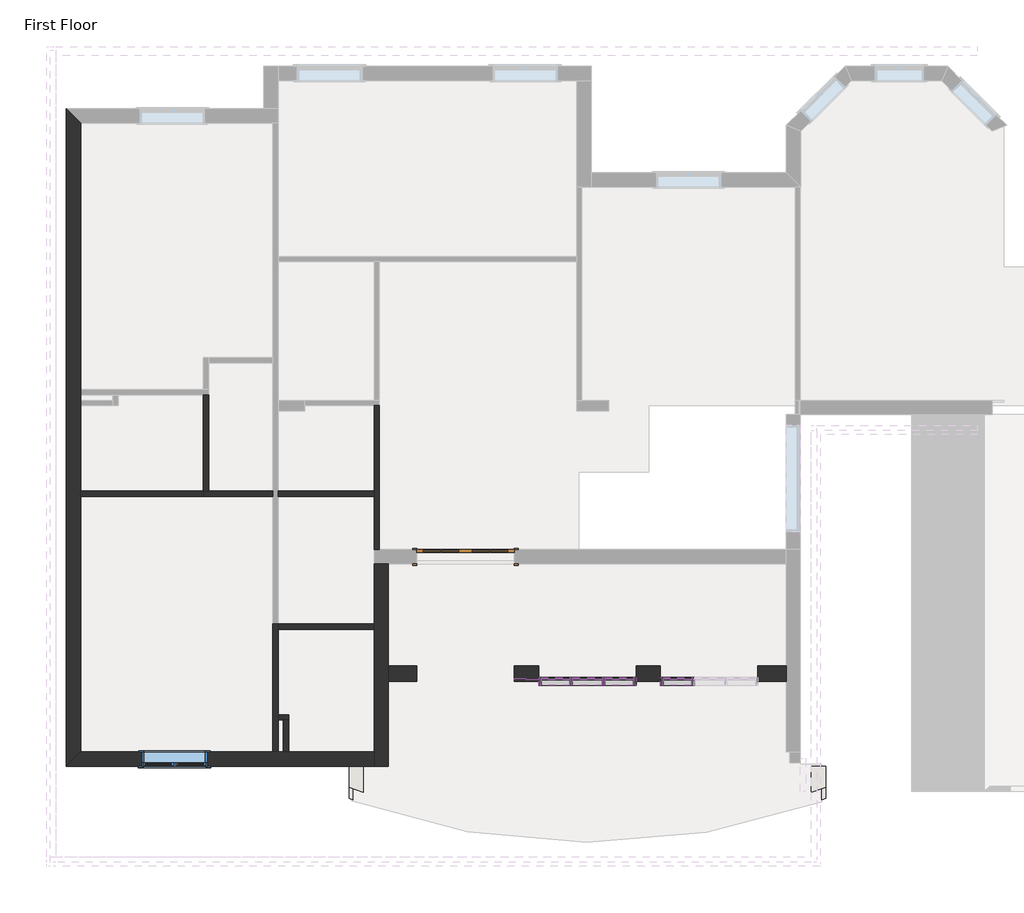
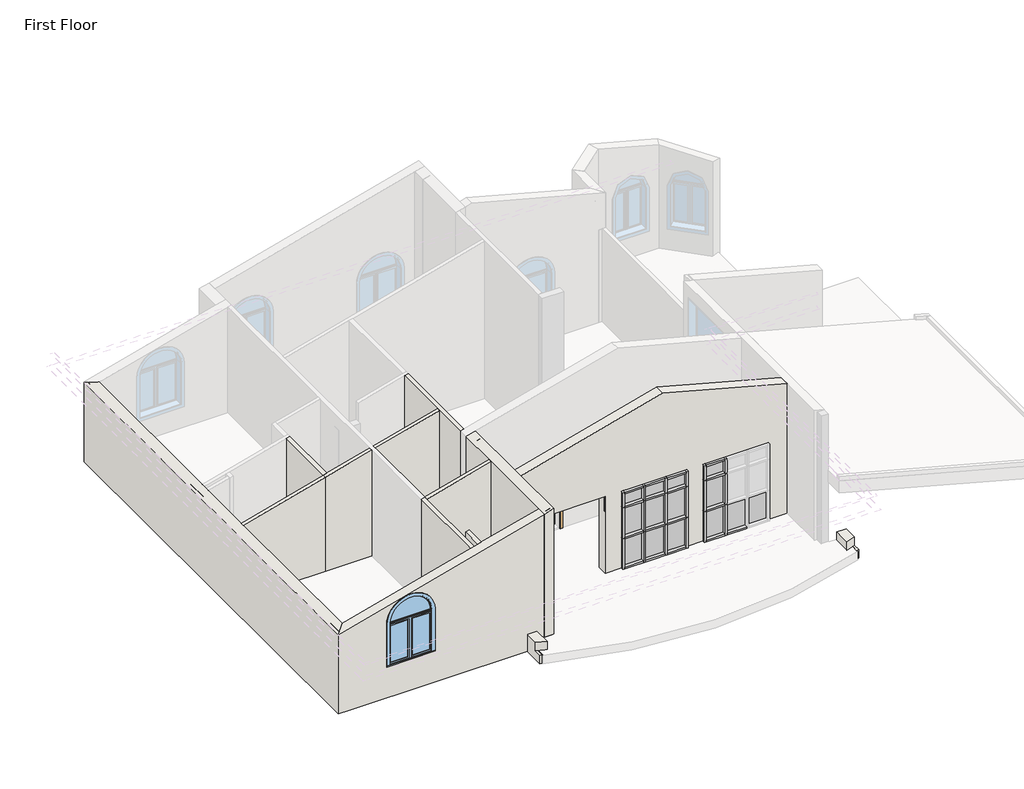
# One storey, part 1 of 3: 35 members, 15 plates, 14 walls, 1 door, 1 window.
"""IFC4 building model written with IfcOpenShell, lengths in millimetres."""

from ifc_helpers import new_model, si_unit, frame, origin, place, context, project, spatial, polyline, circle_curve, outline, extrude, faceted_brep, transform, mapped, element, save
from ifc_brep_helpers import plane_surface, cylinder_surface, revolved_surface, advanced_brep
from components import m_double_glass_2_1830_x_1900mm_b7e8ba81, rectangular_mullion_50mm_x_150mm_ca11c66a, rectangular_mullion_50mm_x_150mm_94dfdfd7, rectangular_mullion_50mm_x_150mm_c5372db2, rectangular_mullion_50mm_x_150mm_8d9d5cce, rectangular_mullion_50mm_x_150mm_36cc9eb6, rectangular_mullion_50mm_x_150mm_df95c845, rectangular_mullion_50mm_x_150mm_b06d37f8, rectangular_mullion_50mm_x_150mm_dacbbbe8, system_panel_glazed_a2e83630, system_panel_glazed_54fbfc96, system_panel_glazed_1253e8ac, system_panel_glazed_4efe49fa, system_panel_glazed_77dbd889, system_panel_glazed_d14ec5e9, system_panel_glazed_5f0a6860, window_1220_x_1220mm_cc1a8abd

model = new_model("IFC4")

# Units and contexts
model_context = context("Model", 3, world=origin())
ifc_project = project(units=[si_unit("LENGTHUNIT", "METRE", prefix="MILLI")], contexts=[model_context])

# Site, building, storey
site = spatial("IfcSite", under=ifc_project)
building = spatial("IfcBuilding", under=site)
storey = spatial("IfcBuildingStorey", under=building, Name="First Floor", Elevation=3000.0)

# Door
placement = place(None, origin())
m_double_glass_2_1830_x_1900mm_shape = m_double_glass_2_1830_x_1900mm_b7e8ba81(model_context)
element("IfcDoor", 1, ObjectType="M_Double-Glass 2 : 1830 x 1900mm", at=placement, inside=storey, context=model_context, shape_type="MappedRepresentation", body=[
    mapped(m_double_glass_2_1830_x_1900mm_shape, transform((-402.081946, -2630.1659495, 3000.0), x_axis=(-1.0, 0.0, 0.0), y_axis=(0.0, -1.0, 0.0), z_axis=(0.0, 0.0, 1.0))),
])

# Members
rectangular_mullion_50mm_x_150mm_shape = rectangular_mullion_50mm_x_150mm_ca11c66a(model_context)
element("IfcMember", 2, ObjectType="Rectangular Mullion : 50mm x 150mm", at=placement, inside=storey, context=model_context, shape_type="MappedRepresentation", body=[
    mapped(rectangular_mullion_50mm_x_150mm_shape, transform((2162.918054, -4965.1659495, 3916.6666667), x_axis=(0.0, 0.0, 1.0), y_axis=(0.0, -1.0, 0.0), z_axis=(1.0, 0.0, 0.0))),
])
element("IfcMember", 3, ObjectType="Rectangular Mullion : 50mm x 150mm", at=placement, inside=storey, context=model_context, shape_type="MappedRepresentation", body=[
    mapped(rectangular_mullion_50mm_x_150mm_shape, transform((2162.918054, -4965.1659495, 4833.3333333), x_axis=(0.0, 0.0, 1.0), y_axis=(0.0, -1.0, 0.0), z_axis=(1.0, 0.0, 0.0))),
])
rectangular_mullion_50mm_x_150mm_2_shape = rectangular_mullion_50mm_x_150mm_94dfdfd7(model_context)
element("IfcMember", 4, ObjectType="Rectangular Mullion : 50mm x 150mm", at=placement, inside=storey, context=model_context, shape_type="MappedRepresentation", body=[
    mapped(rectangular_mullion_50mm_x_150mm_2_shape, transform((1577.918054, -4965.1659495, 3916.6666667), x_axis=(1.0, 0.0, 0.0), y_axis=(0.0, -1.0, 0.0), z_axis=(0.0, 0.0, -1.0))),
])
element("IfcMember", 5, ObjectType="Rectangular Mullion : 50mm x 150mm", at=placement, inside=storey, context=model_context, shape_type="MappedRepresentation", body=[
    mapped(rectangular_mullion_50mm_x_150mm_2_shape, transform((2187.918054, -4965.1659495, 3916.6666667), x_axis=(1.0, 0.0, 0.0), y_axis=(0.0, -1.0, 0.0), z_axis=(0.0, 0.0, -1.0))),
])
element("IfcMember", 6, ObjectType="Rectangular Mullion : 50mm x 150mm", at=placement, inside=storey, context=model_context, shape_type="MappedRepresentation", body=[
    mapped(rectangular_mullion_50mm_x_150mm_2_shape, transform((3862.918054, -4965.1659495, 3916.6666667), x_axis=(1.0, 0.0, 0.0), y_axis=(0.0, -1.0, 0.0), z_axis=(0.0, 0.0, -1.0))),
])
rectangular_mullion_50mm_x_150mm_3_shape = rectangular_mullion_50mm_x_150mm_c5372db2(model_context)
element("IfcMember", 7, ObjectType="Rectangular Mullion : 50mm x 150mm", at=placement, inside=storey, context=model_context, shape_type="MappedRepresentation", body=[
    mapped(rectangular_mullion_50mm_x_150mm_3_shape, transform((1577.918054, -4965.1659495, 4833.3333333), x_axis=(1.0, 0.0, 0.0), y_axis=(0.0, -1.0, 0.0), z_axis=(0.0, 0.0, -1.0))),
])
element("IfcMember", 8, ObjectType="Rectangular Mullion : 50mm x 150mm", at=placement, inside=storey, context=model_context, shape_type="MappedRepresentation", body=[
    mapped(rectangular_mullion_50mm_x_150mm_3_shape, transform((2187.918054, -4965.1659495, 4833.3333333), x_axis=(1.0, 0.0, 0.0), y_axis=(0.0, -1.0, 0.0), z_axis=(0.0, 0.0, -1.0))),
])
element("IfcMember", 9, ObjectType="Rectangular Mullion : 50mm x 150mm", at=placement, inside=storey, context=model_context, shape_type="MappedRepresentation", body=[
    mapped(rectangular_mullion_50mm_x_150mm_3_shape, transform((3862.918054, -4965.1659495, 4833.3333333), x_axis=(1.0, 0.0, 0.0), y_axis=(0.0, -1.0, 0.0), z_axis=(0.0, 0.0, -1.0))),
])
rectangular_mullion_50mm_x_150mm_4_shape = rectangular_mullion_50mm_x_150mm_8d9d5cce(model_context)
element("IfcMember", 10, ObjectType="Rectangular Mullion : 50mm x 150mm", at=placement, inside=storey, context=model_context, shape_type="MappedRepresentation", body=[
    mapped(rectangular_mullion_50mm_x_150mm_4_shape, transform((2162.918054, -4965.1659495, 5278.2737043), x_axis=(0.0, 0.0, 1.0), y_axis=(0.0, -1.0, 0.0), z_axis=(1.0, 0.0, 0.0))),
])
rectangular_mullion_50mm_x_150mm_5_shape = rectangular_mullion_50mm_x_150mm_36cc9eb6(model_context)
element("IfcMember", 11, ObjectType="Rectangular Mullion : 50mm x 150mm", at=placement, inside=storey, context=model_context, shape_type="MappedRepresentation", body=[
    mapped(rectangular_mullion_50mm_x_150mm_5_shape, transform((2747.918054, -4965.1659495, 3916.6666667), x_axis=(0.0, 0.0, 1.0), y_axis=(0.0, -1.0, 0.0), z_axis=(1.0, 0.0, 0.0))),
])
element("IfcMember", 12, ObjectType="Rectangular Mullion : 50mm x 150mm", at=placement, inside=storey, context=model_context, shape_type="MappedRepresentation", body=[
    mapped(rectangular_mullion_50mm_x_150mm_5_shape, transform((1552.918054, -4965.1659495, 3916.6666667), x_axis=(0.0, 0.0, 1.0), y_axis=(0.0, -1.0, 0.0), z_axis=(1.0, 0.0, 0.0))),
])
element("IfcMember", 13, ObjectType="Rectangular Mullion : 50mm x 150mm", at=placement, inside=storey, context=model_context, shape_type="MappedRepresentation", body=[
    mapped(rectangular_mullion_50mm_x_150mm_5_shape, transform((2747.918054, -4965.1659495, 4833.3333333), x_axis=(0.0, 0.0, 1.0), y_axis=(0.0, -1.0, 0.0), z_axis=(1.0, 0.0, 0.0))),
])
element("IfcMember", 14, ObjectType="Rectangular Mullion : 50mm x 150mm", at=placement, inside=storey, context=model_context, shape_type="MappedRepresentation", body=[
    mapped(rectangular_mullion_50mm_x_150mm_5_shape, transform((1552.918054, -4965.1659495, 4833.3333333), x_axis=(0.0, 0.0, 1.0), y_axis=(0.0, -1.0, 0.0), z_axis=(1.0, 0.0, 0.0))),
])
element("IfcMember", 15, ObjectType="Rectangular Mullion : 50mm x 150mm", at=placement, inside=storey, context=model_context, shape_type="MappedRepresentation", body=[
    mapped(rectangular_mullion_50mm_x_150mm_5_shape, transform((3837.918054, -4965.1659495, 4833.3333333), x_axis=(0.0, 0.0, 1.0), y_axis=(0.0, -1.0, 0.0), z_axis=(1.0, 0.0, 0.0))),
])
element("IfcMember", 16, ObjectType="Rectangular Mullion : 50mm x 150mm", at=placement, inside=storey, context=model_context, shape_type="MappedRepresentation", body=[
    mapped(rectangular_mullion_50mm_x_150mm_5_shape, transform((3837.918054, -4965.1659495, 3916.6666667), x_axis=(0.0, 0.0, 1.0), y_axis=(0.0, -1.0, 0.0), z_axis=(1.0, 0.0, 0.0))),
])
rectangular_mullion_50mm_x_150mm_6_shape = rectangular_mullion_50mm_x_150mm_df95c845(model_context)
element("IfcMember", 17, ObjectType="Rectangular Mullion : 50mm x 150mm", at=placement, inside=storey, context=model_context, shape_type="MappedRepresentation", body=[
    mapped(rectangular_mullion_50mm_x_150mm_6_shape, transform((1552.918054, -4965.1659495, 5278.2737043), x_axis=(0.0, 0.0, 1.0), y_axis=(0.0, -1.0, 0.0), z_axis=(1.0, 0.0, 0.0))),
])
element("IfcMember", 18, ObjectType="Rectangular Mullion : 50mm x 150mm", at=placement, inside=storey, context=model_context, shape_type="MappedRepresentation", body=[
    mapped(rectangular_mullion_50mm_x_150mm_6_shape, transform((2747.918054, -4965.1659495, 5278.2737043), x_axis=(0.0, 0.0, 1.0), y_axis=(0.0, -1.0, 0.0), z_axis=(1.0, 0.0, 0.0))),
])
element("IfcMember", 19, ObjectType="Rectangular Mullion : 50mm x 150mm", at=placement, inside=storey, context=model_context, shape_type="MappedRepresentation", body=[
    mapped(rectangular_mullion_50mm_x_150mm_6_shape, transform((3837.918054, -4965.1659495, 5278.2737043), x_axis=(0.0, 0.0, 1.0), y_axis=(0.0, -1.0, 0.0), z_axis=(1.0, 0.0, 0.0))),
])
rectangular_mullion_50mm_x_150mm_7_shape = rectangular_mullion_50mm_x_150mm_b06d37f8(model_context)
element("IfcMember", 20, ObjectType="Rectangular Mullion : 50mm x 150mm", at=placement, inside=storey, context=model_context, shape_type="MappedRepresentation", body=[
    mapped(rectangular_mullion_50mm_x_150mm_7_shape, transform((2797.918054, -4965.1659495, 4833.3333333), x_axis=(1.0, 0.0, 0.0), y_axis=(0.0, -1.0, 0.0), z_axis=(0.0, 0.0, -1.0))),
])
rectangular_mullion_50mm_x_150mm_8_shape = rectangular_mullion_50mm_x_150mm_dacbbbe8(model_context)
element("IfcMember", 21, ObjectType="Rectangular Mullion : 50mm x 150mm", at=placement, inside=storey, context=model_context, shape_type="MappedRepresentation", body=[
    mapped(rectangular_mullion_50mm_x_150mm_8_shape, transform((2797.918054, -4965.1659495, 3916.6666667), x_axis=(1.0, 0.0, 0.0), y_axis=(0.0, -1.0, 0.0), z_axis=(0.0, 0.0, -1.0))),
])
element("IfcMember", 22, ObjectType="Rectangular Mullion : 50mm x 150mm", at=placement, inside=storey, context=model_context, shape_type="MappedRepresentation", body=[
    mapped(rectangular_mullion_50mm_x_150mm_8_shape, transform((967.918054, -4965.1659495, 4833.3333333), x_axis=(-1.0, 0.0, 0.0), y_axis=(0.0, -1.0, 0.0), z_axis=(0.0, 0.0, 1.0))),
])
element("IfcMember", 23, ObjectType="Rectangular Mullion : 50mm x 150mm", at=placement, inside=storey, context=model_context, shape_type="MappedRepresentation", body=[
    mapped(rectangular_mullion_50mm_x_150mm_8_shape, transform((3252.918054, -4965.1659495, 4833.3333333), x_axis=(-1.0, 0.0, 0.0), y_axis=(0.0, -1.0, 0.0), z_axis=(0.0, 0.0, 1.0))),
])
element("IfcMember", 24, ObjectType="Rectangular Mullion : 50mm x 150mm", at=placement, inside=storey, context=model_context, shape_type="MappedRepresentation", body=[
    mapped(rectangular_mullion_50mm_x_150mm_7_shape, transform((967.918054, -4965.1659495, 5278.2737043), x_axis=(-1.0, 0.0, 0.0), y_axis=(0.0, -1.0, 0.0), z_axis=(0.0, 0.0, 1.0))),
])
element("IfcMember", 25, ObjectType="Rectangular Mullion : 50mm x 150mm", at=placement, inside=storey, context=model_context, shape_type="MappedRepresentation", body=[
    mapped(rectangular_mullion_50mm_x_150mm_7_shape, transform((3252.918054, -4965.1659495, 5278.2737043), x_axis=(-1.0, 0.0, 0.0), y_axis=(0.0, -1.0, 0.0), z_axis=(0.0, 0.0, 1.0))),
])
element("IfcMember", 26, ObjectType="Rectangular Mullion : 50mm x 150mm", at=placement, inside=storey, context=model_context, shape_type="MappedRepresentation", body=[
    mapped(rectangular_mullion_50mm_x_150mm_2_shape, transform((1577.918054, -4965.1659495, 3000.0), x_axis=(1.0, 0.0, 0.0), y_axis=(0.0, -1.0, 0.0), z_axis=(0.0, 0.0, -1.0))),
])
element("IfcMember", 27, ObjectType="Rectangular Mullion : 50mm x 150mm", at=placement, inside=storey, context=model_context, shape_type="MappedRepresentation", body=[
    mapped(rectangular_mullion_50mm_x_150mm_2_shape, transform((2187.918054, -4965.1659495, 3000.0), x_axis=(1.0, 0.0, 0.0), y_axis=(0.0, -1.0, 0.0), z_axis=(0.0, 0.0, -1.0))),
])
element("IfcMember", 28, ObjectType="Rectangular Mullion : 50mm x 150mm", at=placement, inside=storey, context=model_context, shape_type="MappedRepresentation", body=[
    mapped(rectangular_mullion_50mm_x_150mm_2_shape, transform((3862.918054, -4965.1659495, 3000.0), x_axis=(1.0, 0.0, 0.0), y_axis=(0.0, -1.0, 0.0), z_axis=(0.0, 0.0, -1.0))),
])
element("IfcMember", 29, ObjectType="Rectangular Mullion : 50mm x 150mm", at=placement, inside=storey, context=model_context, shape_type="MappedRepresentation", body=[
    mapped(rectangular_mullion_50mm_x_150mm_4_shape, transform((1602.918054, -4965.1659495, 3000.0), x_axis=(0.0, 0.0, -1.0), y_axis=(0.0, -1.0, 0.0), z_axis=(-1.0, 0.0, 0.0))),
])
element("IfcMember", 30, ObjectType="Rectangular Mullion : 50mm x 150mm", at=placement, inside=storey, context=model_context, shape_type="MappedRepresentation", body=[
    mapped(rectangular_mullion_50mm_x_150mm_4_shape, transform((3887.918054, -4965.1659495, 3000.0), x_axis=(0.0, 0.0, -1.0), y_axis=(0.0, -1.0, 0.0), z_axis=(-1.0, 0.0, 0.0))),
])
element("IfcMember", 31, ObjectType="Rectangular Mullion : 50mm x 150mm", at=placement, inside=storey, context=model_context, shape_type="MappedRepresentation", body=[
    mapped(rectangular_mullion_50mm_x_150mm_6_shape, transform((2212.918054, -4965.1659495, 3000.0), x_axis=(0.0, 0.0, -1.0), y_axis=(0.0, -1.0, 0.0), z_axis=(-1.0, 0.0, 0.0))),
])
element("IfcMember", 32, ObjectType="Rectangular Mullion : 50mm x 150mm", at=placement, inside=storey, context=model_context, shape_type="MappedRepresentation", body=[
    mapped(rectangular_mullion_50mm_x_150mm_6_shape, transform((1017.918054, -4965.1659495, 3000.0), x_axis=(0.0, 0.0, -1.0), y_axis=(0.0, -1.0, 0.0), z_axis=(-1.0, 0.0, 0.0))),
])
element("IfcMember", 33, ObjectType="Rectangular Mullion : 50mm x 150mm", at=placement, inside=storey, context=model_context, shape_type="MappedRepresentation", body=[
    mapped(rectangular_mullion_50mm_x_150mm_6_shape, transform((3302.918054, -4965.1659495, 3000.0), x_axis=(0.0, 0.0, -1.0), y_axis=(0.0, -1.0, 0.0), z_axis=(-1.0, 0.0, 0.0))),
])
element("IfcMember", 34, ObjectType="Rectangular Mullion : 50mm x 150mm", at=placement, inside=storey, context=model_context, shape_type="MappedRepresentation", body=[
    mapped(rectangular_mullion_50mm_x_150mm_8_shape, transform((2797.918054, -4965.1659495, 3000.0), x_axis=(1.0, 0.0, 0.0), y_axis=(0.0, -1.0, 0.0), z_axis=(0.0, 0.0, -1.0))),
])
element("IfcMember", 35, ObjectType="Rectangular Mullion : 50mm x 150mm", at=placement, inside=storey, context=model_context, shape_type="MappedRepresentation", body=[
    mapped(rectangular_mullion_50mm_x_150mm_8_shape, transform((967.918054, -4965.1659495, 3916.6666667), x_axis=(-1.0, 0.0, 0.0), y_axis=(0.0, -1.0, 0.0), z_axis=(0.0, 0.0, 1.0))),
])
element("IfcMember", 36, ObjectType="Rectangular Mullion : 50mm x 150mm", at=placement, inside=storey, context=model_context, shape_type="MappedRepresentation", body=[
    mapped(rectangular_mullion_50mm_x_150mm_8_shape, transform((3252.918054, -4965.1659495, 3916.6666667), x_axis=(-1.0, 0.0, 0.0), y_axis=(0.0, -1.0, 0.0), z_axis=(0.0, 0.0, 1.0))),
])

# Plates
system_panel_glazed_shape = system_panel_glazed_a2e83630(model_context)
element("IfcPlate", 37, ObjectType="System Panel : Glazed", at=placement, inside=storey, context=model_context, shape_type="MappedRepresentation", body=[
    mapped(system_panel_glazed_shape, transform((740.418054, -4965.1659495, 4825.0), x_axis=(1.0, 0.0, 0.0), y_axis=(0.0, 1.0, 0.0), z_axis=(0.0, 0.0, 1.0))),
])
system_panel_glazed_2_shape = system_panel_glazed_54fbfc96(model_context)
element("IfcPlate", 38, ObjectType="System Panel : Glazed", at=placement, inside=storey, context=model_context, shape_type="MappedRepresentation", body=[
    mapped(system_panel_glazed_2_shape, transform((1882.918054, -4965.1659495, 3941.6666667), x_axis=(1.0, 0.0, 0.0), y_axis=(0.0, 1.0, 0.0), z_axis=(0.0, 0.0, 1.0))),
])
system_panel_glazed_3_shape = system_panel_glazed_1253e8ac(model_context)
element("IfcPlate", 39, ObjectType="System Panel : Glazed", at=placement, inside=storey, context=model_context, shape_type="MappedRepresentation", body=[
    mapped(system_panel_glazed_3_shape, transform((1882.918054, -4965.1659495, 4858.3333333), x_axis=(1.0, 0.0, 0.0), y_axis=(0.0, 1.0, 0.0), z_axis=(0.0, 0.0, 1.0))),
])
system_panel_glazed_4_shape = system_panel_glazed_4efe49fa(model_context)
element("IfcPlate", 40, ObjectType="System Panel : Glazed", at=placement, inside=storey, context=model_context, shape_type="MappedRepresentation", body=[
    mapped(system_panel_glazed_4_shape, transform((3570.418054, -4965.1659495, 3941.6666667), x_axis=(1.0, 0.0, 0.0), y_axis=(0.0, 1.0, 0.0), z_axis=(0.0, 0.0, 1.0))),
])
element("IfcPlate", 41, ObjectType="System Panel : Glazed", at=placement, inside=storey, context=model_context, shape_type="MappedRepresentation", body=[
    mapped(system_panel_glazed_4_shape, transform((1285.418054, -4965.1659495, 3941.6666667), x_axis=(1.0, 0.0, 0.0), y_axis=(0.0, 1.0, 0.0), z_axis=(0.0, 0.0, 1.0))),
])
element("IfcPlate", 42, ObjectType="System Panel : Glazed", at=placement, inside=storey, context=model_context, shape_type="MappedRepresentation", body=[
    mapped(system_panel_glazed_4_shape, transform((2480.418054, -4965.1659495, 3941.6666667), x_axis=(1.0, 0.0, 0.0), y_axis=(0.0, 1.0, 0.0), z_axis=(0.0, 0.0, 1.0))),
])
system_panel_glazed_5_shape = system_panel_glazed_77dbd889(model_context)
element("IfcPlate", 43, ObjectType="System Panel : Glazed", at=placement, inside=storey, context=model_context, shape_type="MappedRepresentation", body=[
    mapped(system_panel_glazed_5_shape, transform((1285.418054, -4965.1659495, 4858.3333333), x_axis=(1.0, 0.0, 0.0), y_axis=(0.0, 1.0, 0.0), z_axis=(0.0, 0.0, 1.0))),
])
element("IfcPlate", 44, ObjectType="System Panel : Glazed", at=placement, inside=storey, context=model_context, shape_type="MappedRepresentation", body=[
    mapped(system_panel_glazed_5_shape, transform((2480.418054, -4965.1659495, 4858.3333333), x_axis=(1.0, 0.0, 0.0), y_axis=(0.0, 1.0, 0.0), z_axis=(0.0, 0.0, 1.0))),
])
element("IfcPlate", 45, ObjectType="System Panel : Glazed", at=placement, inside=storey, context=model_context, shape_type="MappedRepresentation", body=[
    mapped(system_panel_glazed_5_shape, transform((3570.418054, -4965.1659495, 4858.3333333), x_axis=(1.0, 0.0, 0.0), y_axis=(0.0, 1.0, 0.0), z_axis=(0.0, 0.0, 1.0))),
])
system_panel_glazed_6_shape = system_panel_glazed_d14ec5e9(model_context)
element("IfcPlate", 46, ObjectType="System Panel : Glazed", at=placement, inside=storey, context=model_context, shape_type="MappedRepresentation", body=[
    mapped(system_panel_glazed_6_shape, transform((1285.418054, -4965.1659495, 3050.0), x_axis=(1.0, 0.0, 0.0), y_axis=(0.0, 1.0, 0.0), z_axis=(0.0, 0.0, 1.0))),
])
element("IfcPlate", 47, ObjectType="System Panel : Glazed", at=placement, inside=storey, context=model_context, shape_type="MappedRepresentation", body=[
    mapped(system_panel_glazed_6_shape, transform((3570.418054, -4965.1659495, 3050.0), x_axis=(1.0, 0.0, 0.0), y_axis=(0.0, 1.0, 0.0), z_axis=(0.0, 0.0, 1.0))),
])
element("IfcPlate", 48, ObjectType="System Panel : Glazed", at=placement, inside=storey, context=model_context, shape_type="MappedRepresentation", body=[
    mapped(system_panel_glazed_6_shape, transform((2480.418054, -4965.1659495, 3050.0), x_axis=(1.0, 0.0, 0.0), y_axis=(0.0, 1.0, 0.0), z_axis=(0.0, 0.0, 1.0))),
])
element("IfcPlate", 49, ObjectType="System Panel : Glazed", at=placement, inside=storey, context=model_context, shape_type="MappedRepresentation", body=[
    mapped(system_panel_glazed_6_shape, transform((4765.418054, -4965.1659495, 3050.0), x_axis=(1.0, 0.0, 0.0), y_axis=(0.0, 1.0, 0.0), z_axis=(0.0, 0.0, 1.0))),
])
system_panel_glazed_7_shape = system_panel_glazed_5f0a6860(model_context)
element("IfcPlate", 50, ObjectType="System Panel : Glazed", at=placement, inside=storey, context=model_context, shape_type="MappedRepresentation", body=[
    mapped(system_panel_glazed_7_shape, transform((1882.918054, -4965.1659495, 3050.0), x_axis=(1.0, 0.0, 0.0), y_axis=(0.0, 1.0, 0.0), z_axis=(0.0, 0.0, 1.0))),
])
element("IfcPlate", 51, ObjectType="System Panel : Glazed", at=placement, inside=storey, context=model_context, shape_type="MappedRepresentation", body=[
    mapped(system_panel_glazed_7_shape, transform((4167.918054, -4965.1659495, 3050.0), x_axis=(1.0, 0.0, 0.0), y_axis=(0.0, 1.0, 0.0), z_axis=(0.0, 0.0, 1.0))),
])

# Walls
element("IfcWall", 52, ObjectType="Generic - 270 mm", at=placement, inside=storey, context=model_context, shape_type="Brep", body=[
    faceted_brep([(-7617.081946, -6295.1659495, 3000.0), (-7617.081946, -1495.1659495, 3000.0), (-7617.081946, -1395.1659495, 3000.0), (-7617.081946, 204.8340505, 3000.0), (-7617.081946, 304.8340505, 3000.0), (-7617.081946, 404.8340505, 3000.0), (-7617.081946, 504.8340505, 3000.0), (-7617.081946, 5504.8340505, 3000.0), (-7617.081946, 5504.8340505, 5172.346282), (-7617.081946, 504.8340505, 5172.346282), (-7617.081946, 404.8340505, 5172.346282), (-7617.081946, 304.8340505, 5172.346282), (-7617.081946, 204.8340505, 5172.346282), (-7617.081946, -1395.1659495, 5172.346282), (-7617.081946, -1495.1659495, 5172.346282), (-7617.081946, -6295.1659495, 5172.346282), (-7887.081946, -6565.1659495, 2750.0), (-7887.081946, -6565.1659495, 5100.0), (-7887.081946, 5774.8340505, 5100.0), (-7887.081946, 5774.8340505, 2750.0), (-7832.081946, 5719.8340505, 3000.0), (-7832.081946, 5719.8340505, 2750.0), (-7832.081946, -6510.1659495, 2750.0), (-7832.081946, -6510.1659495, 3000.0)], [[[0, 1, 2, 3, 4, 5, 6, 7, 8, 9, 10, 11, 12, 13, 14, 15]], [[16, 17, 18, 19]], [[8, 7, 20, 21, 19, 18]], [[0, 15, 17, 16, 22, 23]], [[15, 14, 13, 12, 11, 10, 9, 8, 18, 17]], [[7, 6, 5, 4, 3, 2, 1, 0, 23, 20]], [[20, 23, 22, 21]], [[22, 16, 19, 21]]]),
])
element("IfcWall", 53, ObjectType="Generic - 270 mm", at=placement, inside=storey, context=model_context, shape_type="Brep", body=[
    faceted_brep([(-2117.081946, -2765.1659495, 3000.0), (-2117.081946, -3895.1659495, 3000.0), (-2117.081946, -3995.1659495, 3000.0), (-2117.081946, -6295.1659495, 3000.0), (-2117.081946, -6565.1659495, 3000.0), (-2117.081946, -6565.1659495, 6646.0668403), (-2117.081946, -6295.1659495, 6646.0668403), (-2117.081946, -3995.1659495, 6646.0668403), (-2117.081946, -3895.1659495, 6646.0668403), (-2117.081946, -2765.1659495, 6646.0668403), (-1847.081946, -2765.1659495, 2750.0), (-1847.081946, -2765.1659495, 6718.4131223), (-1847.081946, -4675.1659495, 6718.4131223), (-1847.081946, -4965.1659495, 6718.4131223), (-1847.081946, -6565.1659495, 6718.4131223), (-1847.081946, -6565.1659495, 2750.0), (-1902.081946, -2765.1659495, 2750.0), (-1902.081946, -2765.1659495, 3000.0), (-1902.081946, -6565.1659495, 3000.0), (-1902.081946, -6565.1659495, 2750.0), (-1902.081946, -6510.1659495, 3000.0), (-1902.081946, -6510.1659495, 2750.0)], [[[0, 1, 2, 3, 4, 5, 6, 7, 8, 9]], [[10, 11, 12, 13, 14, 15]], [[0, 9, 11, 10, 16, 17]], [[5, 4, 18, 19, 15, 14]], [[9, 8, 7, 6, 5, 14, 13, 12, 11]], [[4, 3, 2, 1, 0, 17, 20, 18]], [[18, 20, 17, 16, 21, 19]], [[16, 10, 15, 19, 21]]]),
])
element("IfcWall", 54, ObjectType="Generic - 270 mm", at=placement, inside=storey, context=model_context, shape_type="AdvancedBrep", body=[
    advanced_brep(
    [(-2117.081946, -6295.1659495, 3000.0), (-3717.081946, -6295.1659495, 3000.0), (-3817.081946, -6295.1659495, 3000.0), (-3917.081946, -6295.1659495, 3000.0), (-4017.081946, -6295.1659495, 3000.0), (-7617.081946, -6295.1659495, 3000.0), (-7617.081946, -6295.1659495, 5172.346282), (-4017.081946, -6295.1659495, 6136.9633747), (-3917.081946, -6295.1659495, 6163.758294), (-3817.081946, -6295.1659495, 6190.5532132), (-3717.081946, -6295.1659495, 6217.3481324), (-2117.081946, -6295.1659495, 6646.0668403), (-6469.581946, -6295.1659495, 4919.05), (-6469.581946, -6295.1659495, 3680.0), (-5249.581946, -6295.1659495, 3680.0), (-5249.581946, -6295.1659495, 4919.05), (-7887.081946, -6565.1659495, 5100.0), (-7887.081946, -6565.1659495, 2750.0), (-7617.081946, -6565.1659495, 2750.0), (-2587.081946, -6565.1659495, 2750.0), (-2517.081946, -6565.1659495, 2750.0), (-2117.081946, -6565.1659495, 2750.0), (-1902.081946, -6565.1659495, 2750.0), (-1902.081946, -6565.1659495, 3000.0), (-2117.081946, -6565.1659495, 3000.0), (-2117.081946, -6565.1659495, 6646.0668403), (-6469.581946, -6565.1659495, 4919.05), (-5249.581946, -6565.1659495, 4919.05), (-5249.581946, -6565.1659495, 3680.0), (-6469.581946, -6565.1659495, 3680.0), (-7832.081946, -6510.1659495, 3000.0), (-7832.081946, -6510.1659495, 2750.0), (-2117.081946, -6510.1659495, 3000.0), (-1902.081946, -6510.1659495, 3000.0), (-1902.081946, -6510.1659495, 2750.0)],
    [
        (0, 1),
        (1, 2),
        (2, 3),
        (3, 4),
        (4, 5),
        (5, 6),
        (6, 7),
        (7, 8),
        (8, 9),
        (9, 10),
        (10, 11),
        (11, 0),
        (12, 13),
        (13, 14),
        (14, 15),
        (15, 12, circle_curve(frame((-5859.581946, -6295.1659495, 4919.05), z_axis=(0.0, -1.0, 0.0), x_axis=(-1.0, 0.0, 0.0)), 610.0)),
        (16, 17),
        (17, 18),
        (18, 19),
        (19, 20),
        (20, 21),
        (21, 22),
        (22, 23),
        (23, 24),
        (24, 25),
        (25, 16),
        (26, 27, circle_curve(frame((-5859.581946, -6565.1659495, 4919.05), z_axis=(0.0, 1.0, 0.0), x_axis=(-1.0, 0.0, 0.0)), 610.0)),
        (27, 28),
        (28, 29),
        (29, 26),
        (5, 30),
        (30, 31),
        (31, 17),
        (16, 6),
        (0, 32),
        (32, 30),
        (32, 33),
        (33, 34),
        (34, 31),
        (11, 25),
        (24, 32),
        (34, 22),
        (23, 33),
        (12, 26),
        (29, 13),
        (28, 14),
        (27, 15),
    ],
    [
        plane_surface(frame((-1847.081946, -6295.1659495, 3000.0), z_axis=(0.0, 1.0, 0.0), x_axis=(-1.0, 0.0, 0.0))),
        plane_surface(frame((-1847.081946, -6565.1659495, 3000.0), z_axis=(0.0, -1.0, 0.0), x_axis=(1.0, 0.0, 0.0))),
        plane_surface(frame((-7617.081946, -6295.1659495, 3000.0), z_axis=(-0.7071067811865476, 0.7071067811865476, 0.0), x_axis=(-0.7071067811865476, -0.7071067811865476, 0.0))),
        plane_surface(frame((-1982.081946, -6295.1659495, 3000.0), z_axis=(0.0, 0.0, -1.0), x_axis=(0.0, -1.0, 0.0))),
        plane_surface(frame((-1982.081946, -6510.1659495, 3000.0), z_axis=(0.0, 1.0, 0.0), x_axis=(-1.0, 0.0, 0.0))),
        plane_surface(frame((-2117.081946, -2765.1659495, 3000.0), z_axis=(1.0, 0.0, 0.0), x_axis=(0.0, -1.0, 0.0))),
        plane_surface(frame((0.0, 0.0, 2750.0), z_axis=(0.0, 0.0, -1.0), x_axis=(1.0, 0.0, 0.0))),
        plane_surface(frame((-1982.081946, -6510.1659495, 3000.0), z_axis=(0.0, 0.0, 1.0), x_axis=(-1.0, 0.0, 0.0))),
        plane_surface(frame((-1902.081946, -6510.1659495, 2750.0), z_axis=(1.0, 0.0, 0.0), x_axis=(0.0, 0.0, 1.0))),
        plane_surface(frame((-8187.081946, 6874.8340505, 5019.6152423), z_axis=(-0.25881904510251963, 0.0, 0.9659258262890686), x_axis=(0.0, -1.0, 0.0))),
        plane_surface(frame((-6469.581946, -6295.1659495, 4919.05), z_axis=(1.0, 0.0, 0.0), x_axis=(0.0, -1.0, 0.0))),
        plane_surface(frame((-6469.581946, -6295.1659495, 3680.0), z_axis=(0.0, 0.0, 1.0), x_axis=(0.0, -1.0, 0.0))),
        plane_surface(frame((-5249.581946, -6295.1659495, 3680.0), z_axis=(-1.0, 0.0, 0.0), x_axis=(0.0, -1.0, 0.0))),
        revolved_surface(polyline([(-6469.581946, -6565.1659495, 4919.05), (-6469.581946, -6295.1659495, 4919.05)]), (-5859.581946, -6295.1659495, 4919.05), (0.0, -1.0, 0.0)),
    ],
    [
        (0, [[1, 2, 3, 4, 5, 6, 7, 8, 9, 10, 11, 12], [13, 14, 15, 16]]),
        (1, [[17, 18, 19, 20, 21, 22, 23, 24, 25, 26], [27, 28, 29, 30]]),
        (2, [[-6, 31, 32, 33, -17, 34]]),
        (3, [[-5, -4, -3, -2, -1, 35, 36, -31]]),
        (4, [[-36, 37, 38, 39, -32]]),
        (5, [[-12, 40, -25, 41, -35]]),
        (6, [[-22, -21, -20, -19, -18, -33, -39, 42]]),
        (7, [[-37, -41, -24, 43]]),
        (8, [[-42, -38, -43, -23]]),
        (9, [[-11, -10, -9, -8, -7, -34, -26, -40]]),
        (10, [[-13, 44, -30, 45]]),
        (11, [[-14, -45, -29, 46]]),
        (12, [[-15, -46, -28, 47]]),
        (13, [[-16, -47, -27, -44]]),
    ],
),
])
element("IfcWall", 55, ObjectType="Generic - 270 mm + Stone on top", at=placement, inside=storey, context=model_context, shape_type="AdvancedBrep", body=[
    advanced_brep(
    [(6352.918054, -6565.1659495, 2750.0), (6352.918054, -6565.1659495, 3250.0), (6352.918054, -6954.7885323, 3250.0), (6352.918054, -6954.7885323, 3000.0), (6352.918054, -7168.1504725, 3000.0), (6352.918054, -7168.1504725, 2750.0), (6082.918054, -7052.5554637, 3000.0), (6082.918054, -7052.5554637, 3250.0), (6082.918054, -6565.1659495, 3250.0), (6082.918054, -6565.1659495, 3000.0), (6282.918054, -6980.7981688, 3000.0), (6282.918054, -6565.1659495, 2750.0), (6282.918054, -6565.1659495, 3000.0), (6282.918054, -7193.7038172, 2750.0), (6282.918054, -7193.7038172, 3000.0)],
    [
        (0, 1),
        (1, 2),
        (2, 3),
        (3, 4),
        (4, 5),
        (5, 0),
        (6, 7),
        (7, 8),
        (8, 9),
        (9, 6),
        (1, 8),
        (7, 2, circle_curve(frame((1882.918054, 4968.1673839, 3250.0), z_axis=(0.0, 0.0, 1.0), x_axis=(1.0, 0.0, 0.0)), 12733.3333333)),
        (6, 10, circle_curve(frame((1882.918054, 4968.1673839, 3000.0), z_axis=(0.0, 0.0, 1.0), x_axis=(1.0, 0.0, 0.0)), 12733.3333333)),
        (10, 3, circle_curve(frame((1882.918054, 4968.1673839, 3000.0), z_axis=(0.0, 0.0, 1.0), x_axis=(1.0, 0.0, 0.0)), 12733.3333333)),
        (0, 11),
        (11, 12),
        (12, 9),
        (12, 10),
        (11, 13),
        (13, 14),
        (14, 10),
        (5, 13, circle_curve(frame((1882.918054, 4968.1673839, 2750.0), z_axis=(0.0, 0.0, -1.0), x_axis=(1.0, 0.0, 0.0)), 12933.3333333)),
        (14, 4, circle_curve(frame((1882.918054, 4968.1673839, 3000.0), z_axis=(0.0, 0.0, 1.0), x_axis=(1.0, 0.0, 0.0)), 12933.3333333)),
    ],
    [
        plane_surface(frame((6352.918054, -7193.7038172, 3000.0), z_axis=(1.0, 0.0, 0.0), x_axis=(0.0, 1.0, 0.0))),
        plane_surface(frame((6082.918054, -7193.7038172, 3000.0), z_axis=(-1.0, 0.0, 0.0), x_axis=(0.0, -1.0, 0.0))),
        plane_surface(frame((6352.918054, -6430.1659495, 3250.0), z_axis=(0.0, 0.0, 1.0), x_axis=(-1.0, 0.0, 0.0))),
        cylinder_surface(frame((1882.918054, 4968.1673839, 3000.0), z_axis=(0.0, 0.0, -1.0), x_axis=(1.0, 0.0, 0.0)), 12733.3333333),
        plane_surface(frame((12152.918054, -6565.1659495, 0.0), z_axis=(0.0, 1.0, 0.0), x_axis=(1.0, 0.0, 0.0))),
        plane_surface(frame((6352.918054, -7148.0109648, 3000.0), z_axis=(0.0, 0.0, -1.0), x_axis=(-1.0, 0.0, 0.0))),
        plane_surface(frame((6282.918054, -7148.0109648, 3000.0), z_axis=(-1.0, 0.0, 0.0), x_axis=(0.0, 1.0, 0.0))),
        plane_surface(frame((0.0, 0.0, 2750.0), z_axis=(0.0, 0.0, -1.0), x_axis=(1.0, 0.0, 0.0))),
        plane_surface(frame((6352.918054, -7148.0109648, 3000.0), z_axis=(0.0, 0.0, 1.0), x_axis=(0.0, 1.0, 0.0))),
        cylinder_surface(frame((1882.918054, 4968.1673839, 3000.0), z_axis=(0.0, 0.0, -1.0), x_axis=(1.0, 0.0, 0.0)), 12933.3333333),
    ],
    [
        (0, [[1, 2, 3, 4, 5, 6]]),
        (1, [[7, 8, 9, 10]]),
        (2, [[-2, 11, -8, 12]]),
        (3, [[-7, 13, 14, -3, -12]]),
        (4, [[-1, 15, 16, 17, -9, -11]]),
        (5, [[-10, -17, 18, -13]]),
        (6, [[-18, -16, 19, 20, 21]]),
        (7, [[-6, 22, -19, -15]]),
        (8, [[-4, -14, -21, 23]]),
        (9, [[-22, -5, -23, -20]]),
    ],
),
])
element("IfcWall", 56, ObjectType="Generic - 270 mm + Stone on top", at=placement, inside=storey, context=model_context, shape_type="AdvancedBrep", body=[
    advanced_brep(
    [(-2587.081946, -6954.7885323, 3250.0), (-2587.081946, -6565.1659495, 3250.0), (-2587.081946, -6565.1659495, 2750.0), (-2587.081946, -7168.1504725, 2750.0), (-2587.081946, -7168.1504725, 3000.0), (-2587.081946, -6954.7885323, 3000.0), (-2317.081946, -7052.5554637, 3000.0), (-2317.081946, -6565.1659495, 3000.0), (-2317.081946, -6565.1659495, 3250.0), (-2317.081946, -7052.5554637, 3250.0), (-2517.081946, -6980.7981688, 3000.0), (-2517.081946, -6565.1659495, 3000.0), (-2517.081946, -6565.1659495, 2750.0), (-2517.081946, -7193.7038172, 3000.0), (-2517.081946, -7193.7038172, 2750.0)],
    [
        (0, 1),
        (1, 2),
        (2, 3),
        (3, 4),
        (4, 5),
        (5, 0),
        (6, 7),
        (7, 8),
        (8, 9),
        (9, 6),
        (0, 9, circle_curve(frame((1882.918054, 4968.1673839, 3250.0), z_axis=(0.0, 0.0, 1.0), x_axis=(1.0, 0.0, 0.0)), 12733.3333333)),
        (8, 1),
        (5, 10, circle_curve(frame((1882.918054, 4968.1673839, 3000.0), z_axis=(0.0, 0.0, 1.0), x_axis=(1.0, 0.0, 0.0)), 12733.3333333)),
        (10, 6, circle_curve(frame((1882.918054, 4968.1673839, 3000.0), z_axis=(0.0, 0.0, 1.0), x_axis=(1.0, 0.0, 0.0)), 12733.3333333)),
        (7, 11),
        (11, 12),
        (12, 2),
        (10, 11),
        (10, 13),
        (13, 14),
        (14, 12),
        (14, 3, circle_curve(frame((1882.918054, 4968.1673839, 2750.0), z_axis=(0.0, 0.0, -1.0), x_axis=(1.0, 0.0, 0.0)), 12933.3333333)),
        (4, 13, circle_curve(frame((1882.918054, 4968.1673839, 3000.0), z_axis=(0.0, 0.0, 1.0), x_axis=(1.0, 0.0, 0.0)), 12933.3333333)),
    ],
    [
        plane_surface(frame((-2587.081946, -6495.1659495, 3000.0), z_axis=(-1.0, 0.0, 0.0), x_axis=(0.0, -1.0, 0.0))),
        plane_surface(frame((-2317.081946, -6495.1659495, 3000.0), z_axis=(1.0, 0.0, 0.0), x_axis=(0.0, 1.0, 0.0))),
        plane_surface(frame((-2587.081946, -7148.0109648, 3250.0), z_axis=(0.0, 0.0, 1.0), x_axis=(1.0, 0.0, 0.0))),
        cylinder_surface(frame((1882.918054, 4968.1673839, 3000.0), z_axis=(0.0, 0.0, -1.0), x_axis=(1.0, 0.0, 0.0)), 12733.3333333),
        plane_surface(frame((-1847.081946, -6565.1659495, 3000.0), z_axis=(0.0, 1.0, 0.0), x_axis=(1.0, 0.0, 0.0))),
        plane_surface(frame((-2587.081946, -6430.1659495, 3000.0), z_axis=(0.0, 0.0, -1.0), x_axis=(1.0, 0.0, 0.0))),
        plane_surface(frame((-2517.081946, -6430.1659495, 3000.0), z_axis=(1.0, 0.0, 0.0), x_axis=(0.0, -1.0, 0.0))),
        plane_surface(frame((0.0, 0.0, 2750.0), z_axis=(0.0, 0.0, -1.0), x_axis=(1.0, 0.0, 0.0))),
        plane_surface(frame((-2517.081946, -6430.1659495, 3000.0), z_axis=(0.0, 0.0, 1.0), x_axis=(0.0, 1.0, 0.0))),
        cylinder_surface(frame((1882.918054, 4968.1673839, 3000.0), z_axis=(0.0, 0.0, -1.0), x_axis=(1.0, 0.0, 0.0)), 12933.3333333),
    ],
    [
        (0, [[1, 2, 3, 4, 5, 6]]),
        (1, [[7, 8, 9, 10]]),
        (2, [[-1, 11, -9, 12]]),
        (3, [[-10, -11, -6, 13, 14]]),
        (4, [[-2, -12, -8, 15, 16, 17]]),
        (5, [[-7, -14, 18, -15]]),
        (6, [[-16, -18, 19, 20, 21]]),
        (7, [[-3, -17, -21, 22]]),
        (8, [[-19, -13, -5, 23]]),
        (9, [[-22, -20, -23, -4]]),
    ],
),
])
element("IfcWall", 57, ObjectType="Generic - 290 mm - Ext Balcony", at=placement, inside=storey, context=model_context, shape_type="SweptSolid", body=[
    extrude(outline(polyline([(3000.0, 5611.043054), (6852.8901232, 5611.043054), (7784.8509082, 2132.918054), (6718.4131223, -1847.081946), (3000.0, -1847.081946), (3000.0, -1317.081946), (5278.2737043, -1317.081946), (5278.2737043, 512.918054), (3000.0, 512.918054), (3000.0, 967.918054), (5278.2737043, 967.918054), (5278.2737043, 2797.918054), (3000.0, 2797.918054), (3000.0, 3252.918054), (5278.2737043, 3252.918054), (5278.2737043, 5082.918054), (3000.0, 5082.918054), (3000.0, 5611.043054)])), frame((0.0, -4965.1659495, 0.0), z_axis=(0.0, 1.0, 0.0), x_axis=(0.0, 0.0, 1.0)), (0.0, 0.0, 1.0), 290.0),
])
element("IfcWall", 58, ObjectType="Interior - 100mm Partition (2-hr)", at=placement, inside=storey, context=model_context, shape_type="SweptSolid", body=[
    extrude(outline(polyline([(5788.6294245, -5317.081946), (3000.0, -5317.081946), (3000.0, -5217.081946), (5815.4243438, -5217.081946), (5788.6294245, -5317.081946)])), frame((0.0, -1395.1659495, 0.0), z_axis=(0.0, 1.0, 0.0), x_axis=(0.0, 0.0, 1.0)), (0.0, 0.0, 1.0), 1800.0),
])
element("IfcWall", 59, ObjectType="Interior - 100mm Partition (2-hr)", at=placement, inside=storey, context=model_context, shape_type="SweptSolid", body=[
    extrude(outline(polyline([(3000.0, -7617.081946), (3000.0, -5317.081946), (5788.6294245, -5317.081946), (5172.346282, -7617.081946), (3000.0, -7617.081946)])), frame((0.0, -1495.1659495, 0.0), z_axis=(0.0, 1.0, 0.0), x_axis=(0.0, 0.0, 1.0)), (0.0, 0.0, 1.0), 100.0),
])
element("IfcWall", 60, ObjectType="Interior - 100mm Partition (2-hr)", at=placement, inside=storey, context=model_context, shape_type="Brep", body=[
    faceted_brep([(-3917.081946, -6295.1659495, 3000.0), (-3917.081946, -5695.1659495, 3000.0), (-3917.081946, -5595.1659495, 3000.0), (-3917.081946, -3995.1659495, 3000.0), (-3917.081946, -3895.1659495, 3000.0), (-3917.081946, -3895.1659495, 6163.758294), (-3917.081946, -3995.1659495, 6163.758294), (-3917.081946, -6295.1659495, 6163.758294), (-4017.081946, -6295.1659495, 3000.0), (-4017.081946, -6295.1659495, 6136.9633747), (-4017.081946, -3895.1659495, 6136.9633747), (-4017.081946, -3895.1659495, 3000.0)], [[[0, 1, 2, 3, 4, 5, 6, 7]], [[8, 9, 10, 11]], [[4, 3, 2, 1, 0, 8, 11]], [[5, 4, 11, 10]], [[0, 7, 9, 8]], [[7, 6, 5, 10, 9]]]),
])
element("IfcWall", 61, ObjectType="Interior - 100mm Partition (2-hr)", at=placement, inside=storey, context=model_context, shape_type="SweptSolid", body=[
    extrude(outline(polyline([(3000.0, -3917.081946), (3000.0, -2117.081946), (6646.0668403, -2117.081946), (6163.758294, -3917.081946), (3000.0, -3917.081946)])), frame((0.0, -3995.1659495, 0.0), z_axis=(0.0, 1.0, 0.0), x_axis=(0.0, 0.0, 1.0)), (0.0, 0.0, 1.0), 100.0),
])
element("IfcWall", 62, ObjectType="Interior - 100mm Partition (2-hr)", at=placement, inside=storey, context=model_context, shape_type="Brep", body=[
    faceted_brep([(-3917.081946, -5695.1659495, 3000.0), (-3817.081946, -5695.1659495, 3000.0), (-3717.081946, -5695.1659495, 3000.0), (-3717.081946, -5695.1659495, 5750.0), (-3917.081946, -5695.1659495, 5750.0), (-3917.081946, -5595.1659495, 3000.0), (-3917.081946, -5595.1659495, 5750.0), (-3717.081946, -5595.1659495, 5750.0), (-3717.081946, -5595.1659495, 3000.0)], [[[0, 1, 2, 3, 4]], [[5, 6, 7, 8]], [[2, 1, 0, 5, 8]], [[4, 3, 7, 6]], [[3, 2, 8, 7]], [[0, 4, 6, 5]]]),
])
element("IfcWall", 63, ObjectType="Interior - 100mm Partition (2-hr)", at=placement, inside=storey, context=model_context, shape_type="Brep", body=[
    faceted_brep([(-3817.081946, -5695.1659495, 3000.0), (-3817.081946, -6295.1659495, 3000.0), (-3817.081946, -6295.1659495, 6190.5532132), (-3817.081946, -5695.1659495, 6190.5532132), (-3717.081946, -5695.1659495, 3000.0), (-3717.081946, -5695.1659495, 5750.0), (-3717.081946, -5695.1659495, 6217.3481324), (-3717.081946, -6295.1659495, 6217.3481324), (-3717.081946, -6295.1659495, 3000.0)], [[[0, 1, 2, 3]], [[4, 5, 6, 7, 8]], [[1, 0, 4, 8]], [[0, 3, 6, 5, 4]], [[2, 1, 8, 7]], [[3, 2, 7, 6]]]),
])
element("IfcWall", 64, ObjectType="Interior -100mm Partition (1-hr)", at=placement, inside=storey, context=model_context, shape_type="Brep", body=[
    faceted_brep([(-2117.081946, -1495.1659495, 3000.0), (-2117.081946, -1495.1659495, 6646.0668403), (-3917.081946, -1495.1659495, 6163.758294), (-3917.081946, -1495.1659495, 3000.0), (-2117.081946, -1395.1659495, 6646.0668403), (-2117.081946, -1395.1659495, 3000.0), (-3917.081946, -1395.1659495, 3000.0), (-3917.081946, -1395.1659495, 6163.758294)], [[[0, 1, 2, 3]], [[4, 5, 6, 7]], [[5, 0, 3, 6]], [[1, 0, 5, 4]], [[1, 4, 7, 2]], [[3, 2, 7, 6]]]),
    faceted_brep([(-5317.081946, -1495.1659495, 5788.6294245), (-5317.081946, -1495.1659495, 3000.0), (-4017.081946, -1495.1659495, 3000.0), (-4017.081946, -1495.1659495, 6136.9633747), (-5317.081946, -1395.1659495, 3000.0), (-5317.081946, -1395.1659495, 5788.6294245), (-5217.081946, -1395.1659495, 5815.4243438), (-4017.081946, -1395.1659495, 6136.9633747), (-4017.081946, -1395.1659495, 3000.0), (-5217.081946, -1395.1659495, 3000.0)], [[[0, 1, 2, 3]], [[4, 5, 6, 7, 8, 9]], [[1, 4, 9, 8, 2]], [[1, 0, 5, 4]], [[5, 0, 3, 7, 6]], [[3, 2, 8, 7]]]),
])
element("IfcWall", 65, ObjectType="Interior -100mm Partition (1-hr)", at=placement, inside=storey, context=model_context, shape_type="Brep", body=[
    faceted_brep([(-2117.081946, 204.8340505, 3000.0), (-2117.081946, -1395.1659495, 3000.0), (-2117.081946, -1495.1659495, 3000.0), (-2117.081946, -2495.1659495, 3000.0), (-2117.081946, -2495.1659495, 6646.0668403), (-2117.081946, -1495.1659495, 6646.0668403), (-2117.081946, -1395.1659495, 6646.0668403), (-2117.081946, 204.8340505, 6646.0668403), (-2017.081946, 204.8340505, 3000.0), (-2017.081946, 204.8340505, 6672.8617596), (-2017.081946, -2495.1659495, 6672.8617596), (-2017.081946, -2495.1659495, 3000.0)], [[[0, 1, 2, 3, 4, 5, 6, 7]], [[8, 9, 10, 11]], [[3, 2, 1, 0, 8, 11]], [[4, 3, 11, 10]], [[0, 7, 9, 8]], [[7, 6, 5, 4, 10, 9]]]),
])

# Window
window_1220_x_1220mm_shape = window_1220_x_1220mm_cc1a8abd(model_context)
element("IfcWindow", 66, ObjectType="M_Combination Rtp with Trim : 1220 x 1220mm", at=placement, inside=storey, context=model_context, shape_type="MappedRepresentation", body=[
    mapped(window_1220_x_1220mm_shape, transform((-5851.5797879, -6430.1659495, 2765.0), x_axis=(-1.0, 0.0, 0.0), y_axis=(0.0, -1.0, 0.0), z_axis=(0.0, 0.0, 1.0))),
])

save(model, "model.ifc")
